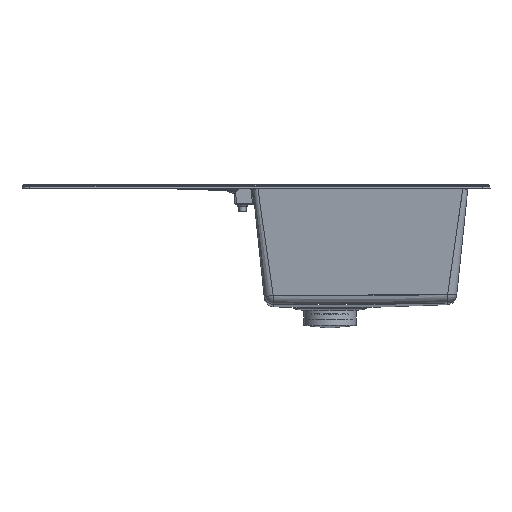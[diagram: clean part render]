
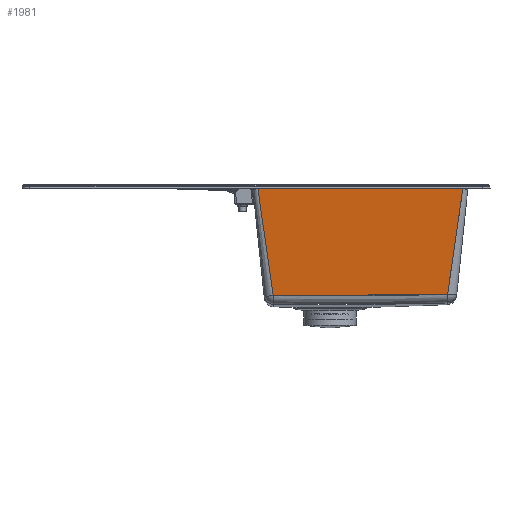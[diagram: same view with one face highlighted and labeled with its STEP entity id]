
A CAD part, front view. The second image highlights one B-rep face of the part: STEP entity #1981.
In plain terms, the highlighted planar face has unit normal (0, -0.995, -0.104).
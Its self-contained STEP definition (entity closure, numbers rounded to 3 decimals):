
#1981=ADVANCED_FACE('',(#2482),#9651,.T.);
#2482=FACE_OUTER_BOUND('',#3070,.T.);
#3070=EDGE_LOOP('',(#4875));
#4875=ORIENTED_EDGE('',*,*,#6406,.T.);
#6406=EDGE_CURVE('',#9132,#9132,#7814,.T.);
#7814=B_SPLINE_CURVE_WITH_KNOTS('',3,(#60176,#60177,#60178,#60179,#60180,
#60181,#60182,#60183,#60184,#60185,#60186,#60187,#60188,#60189,#60190,#60191),
 .UNSPECIFIED.,.T.,.F.,(4,3,3,1,1,1,3,4),(0.,1.,2.,2.247,2.5,
2.753,3.,4.),.UNSPECIFIED.);
#9132=VERTEX_POINT('',#60175);
#9651=PLANE('',#9723);
#9723=AXIS2_PLACEMENT_3D('',#60174,#9779,$);
#9779=DIRECTION('',(0.,-0.995,-0.105));
#60174=CARTESIAN_POINT('',(2.895,-272.374,-70.038));
#60175=CARTESIAN_POINT('',(406.911,-278.926,-7.704));
#60176=CARTESIAN_POINT('',(406.911,-278.926,-7.704));
#60177=CARTESIAN_POINT('',(298.97,-278.926,-7.704));
#60178=CARTESIAN_POINT('',(191.029,-278.926,-7.704));
#60179=CARTESIAN_POINT('',(83.088,-278.926,-7.704));
#60180=CARTESIAN_POINT('',(91.137,-273.01,-63.989));
#60181=CARTESIAN_POINT('',(99.187,-267.094,-120.274));
#60182=CARTESIAN_POINT('',(107.236,-261.179,-176.558));
#60183=CARTESIAN_POINT('',(129.942,-261.143,-176.902));
#60184=CARTESIAN_POINT('',(175.904,-261.092,-177.383));
#60185=CARTESIAN_POINT('',(245.116,-261.111,-177.202));
#60186=CARTESIAN_POINT('',(314.322,-261.218,-176.182));
#60187=CARTESIAN_POINT('',(360.273,-261.327,-175.149));
#60188=CARTESIAN_POINT('',(382.972,-261.386,-174.589));
#60189=CARTESIAN_POINT('',(390.952,-267.232,-118.961));
#60190=CARTESIAN_POINT('',(398.932,-273.079,-63.333));
#60191=CARTESIAN_POINT('',(406.911,-278.926,-7.704));
